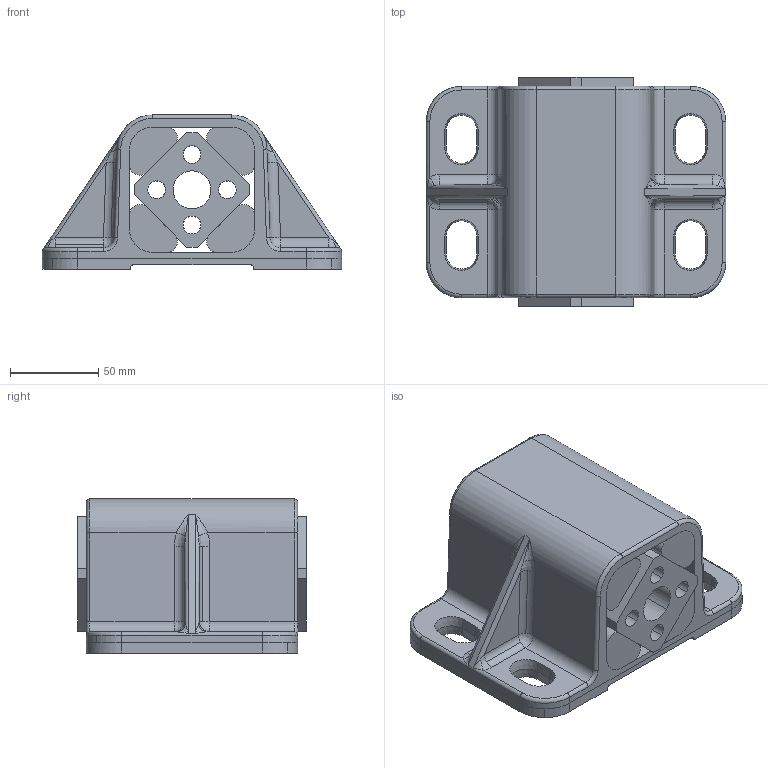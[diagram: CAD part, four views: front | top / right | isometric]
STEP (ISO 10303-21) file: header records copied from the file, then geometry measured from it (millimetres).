
FILE_DESCRIPTION((''),'2;1');
FILE_NAME('\\rostaofc\data\uw\save\daten_f\Normprogramm 3D\Gummifederelemente\DW-A50x120_01101013.stp','2005-01-17T08:30:02',('uw'),(''),'Autodesk Inventor 8','Autodesk Inventor 8','');
FILE_SCHEMA(('AUTOMOTIVE_DESIGN { 1 0 10303 214 1 1 1 1 }'));
Length unit declared in the file: millimetre
Products named in the file (4): ROSTA-Gummifederelement DW-A50x120; Gehäuse zu DW50x120; 3_4_8071-001; 3_4_8071-002
Assembly tree (6 placements, depth 2):
  ROSTA-Gummifederelement DW-A50x120
    Gehäuse zu DW50x120
    3_4_8071-001
    3_4_8071-002  x4
Bounding box: 170 x 130 x 87.5 mm (x, y, z)
Volume: 873793.8 mm3; surface area: 197799.3 mm2
Topology: 6 solids, 6 shells, 230 faces, 558 edges, 328 vertices
Faces by surface type: plane 78, cylinder 62, bspline 62, cone 16, torus 12
Entity records: 7686 total; most frequent: CARTESIAN_POINT 2838, DIRECTION 1014, ORIENTED_EDGE 984, EDGE_CURVE 492, AXIS2_PLACEMENT_3D 376, VERTEX_POINT 292, VECTOR 262, LINE 262
